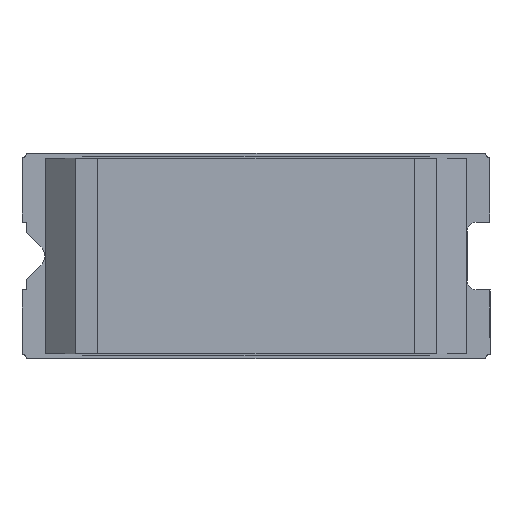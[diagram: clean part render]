
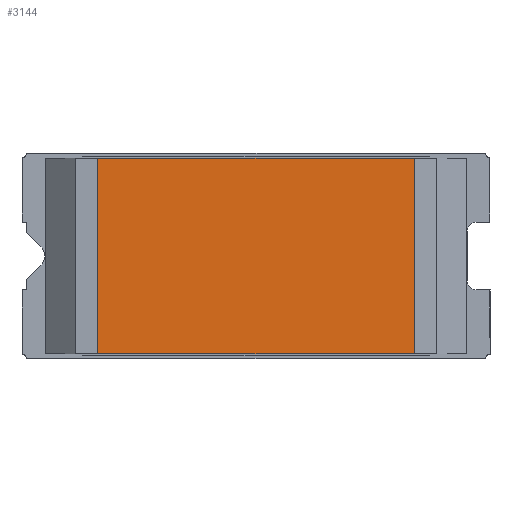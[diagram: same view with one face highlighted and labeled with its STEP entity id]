
A CAD part, top view. The second image highlights one B-rep face of the part: STEP entity #3144.
In plain terms, the highlighted planar face has unit normal (0, 0, 1).
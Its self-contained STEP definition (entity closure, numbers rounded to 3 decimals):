
#3002=CARTESIAN_POINT('',(-7.001,-4.32,0.65));
#3003=VERTEX_POINT('',#3002);
#3004=CARTESIAN_POINT('',(-7.001,4.32,0.65));
#3005=VERTEX_POINT('',#3004);
#3006=CARTESIAN_POINT('',(-7.001,-4.32,0.65));
#3007=DIRECTION('',(0.0,1.0,0.0));
#3008=VECTOR('',#3007,8.64);
#3009=LINE('',#3006,#3008);
#3010=EDGE_CURVE('',#3003,#3005,#3009,.T.);
#3042=CARTESIAN_POINT('',(7.001,4.32,0.65));
#3043=VERTEX_POINT('',#3042);
#3044=CARTESIAN_POINT('',(-7.001,4.32,0.65));
#3045=DIRECTION('',(1.0,0.0,0.0));
#3046=VECTOR('',#3045,14.001);
#3047=LINE('',#3044,#3046);
#3048=EDGE_CURVE('',#3005,#3043,#3047,.T.);
#3073=CARTESIAN_POINT('',(7.001,-4.32,0.65));
#3074=VERTEX_POINT('',#3073);
#3075=CARTESIAN_POINT('',(7.001,4.32,0.65));
#3076=DIRECTION('',(0.0,-1.0,0.0));
#3077=VECTOR('',#3076,8.64);
#3078=LINE('',#3075,#3077);
#3079=EDGE_CURVE('',#3043,#3074,#3078,.T.);
#3104=CARTESIAN_POINT('',(7.001,-4.32,0.65));
#3105=DIRECTION('',(-1.0,0.0,0.0));
#3106=VECTOR('',#3105,14.001);
#3107=LINE('',#3104,#3106);
#3108=EDGE_CURVE('',#3074,#3003,#3107,.T.);
#3133=CARTESIAN_POINT('',(0.,0.,0.65));
#3134=DIRECTION('',(0.0,0.0,1.0));
#3135=DIRECTION('',(1.0,0.0,0.0));
#3136=AXIS2_PLACEMENT_3D('',#3133,#3134,#3135);
#3137=PLANE('',#3136);
#3138=ORIENTED_EDGE('',*,*,#3010,.F.);
#3139=ORIENTED_EDGE('',*,*,#3108,.F.);
#3140=ORIENTED_EDGE('',*,*,#3079,.F.);
#3141=ORIENTED_EDGE('',*,*,#3048,.F.);
#3142=EDGE_LOOP('',(#3138,#3139,#3140,#3141));
#3143=FACE_OUTER_BOUND('',#3142,.T.);
#3144=ADVANCED_FACE('',(#3143),#3137,.T.);
